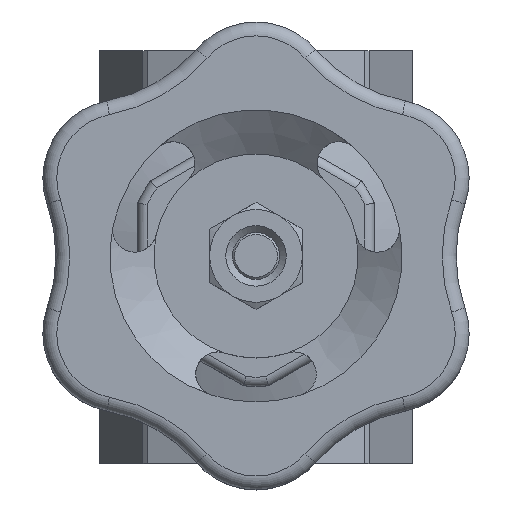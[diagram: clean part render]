
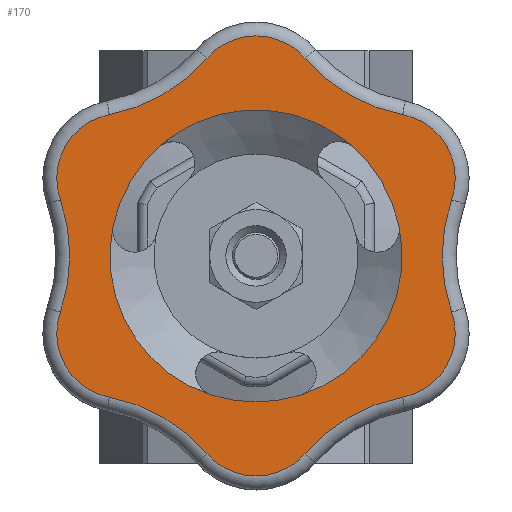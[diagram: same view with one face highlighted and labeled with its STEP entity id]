
A CAD part, top view. The second image highlights one B-rep face of the part: STEP entity #170.
In plain terms, the highlighted planar face has unit normal (0, 0, 1).
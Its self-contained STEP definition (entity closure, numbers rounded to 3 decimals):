
#170=ADVANCED_FACE('',(#1401,#1403),#1405,.T.);
#1401=FACE_BOUND('',#1402,.T.);
#1402=EDGE_LOOP('',(#4708,#4709,#4710,#4711,#4712,#4713,#4714,#4715,#4716,#4717,
#4718,#4719));
#1403=FACE_BOUND('',#1404,.T.);
#1404=EDGE_LOOP('',(#4720,#4721,#4722,#4723,#4724,#4725));
#1405=PLANE('',#1406);
#1406=AXIS2_PLACEMENT_3D('',#1407,#1408,#1409);
#1407=CARTESIAN_POINT('',(0.,0.,76.));
#1408=DIRECTION('',(0.,0.,1.));
#1409=DIRECTION('',(0.,-1.,0.));
#4708=ORIENTED_EDGE('',*,*,#7433,.T.);
#4709=ORIENTED_EDGE('',*,*,#7434,.T.);
#4710=ORIENTED_EDGE('',*,*,#7435,.T.);
#4711=ORIENTED_EDGE('',*,*,#7436,.T.);
#4712=ORIENTED_EDGE('',*,*,#7437,.T.);
#4713=ORIENTED_EDGE('',*,*,#7438,.T.);
#4714=ORIENTED_EDGE('',*,*,#7439,.T.);
#4715=ORIENTED_EDGE('',*,*,#7440,.T.);
#4716=ORIENTED_EDGE('',*,*,#7441,.T.);
#4717=ORIENTED_EDGE('',*,*,#7442,.T.);
#4718=ORIENTED_EDGE('',*,*,#7443,.T.);
#4719=ORIENTED_EDGE('',*,*,#7444,.T.);
#4720=ORIENTED_EDGE('',*,*,#7414,.T.);
#4721=ORIENTED_EDGE('',*,*,#7413,.T.);
#4722=ORIENTED_EDGE('',*,*,#7416,.T.);
#4723=ORIENTED_EDGE('',*,*,#7418,.T.);
#4724=ORIENTED_EDGE('',*,*,#7417,.T.);
#4725=ORIENTED_EDGE('',*,*,#7419,.T.);
#7413=EDGE_CURVE('',#8862,#8881,#8926,.F.);
#7414=EDGE_CURVE('',#8902,#8862,#8927,.F.);
#7416=EDGE_CURVE('',#8881,#8888,#8930,.F.);
#7417=EDGE_CURVE('',#8891,#8899,#8931,.F.);
#7418=EDGE_CURVE('',#8888,#8891,#8932,.F.);
#7419=EDGE_CURVE('',#8899,#8902,#8933,.F.);
#7433=EDGE_CURVE('',#8954,#8955,#8956,.T.);
#7434=EDGE_CURVE('',#8955,#8957,#8958,.T.);
#7435=EDGE_CURVE('',#8957,#8959,#8960,.T.);
#7436=EDGE_CURVE('',#8959,#8961,#8962,.T.);
#7437=EDGE_CURVE('',#8961,#8963,#8964,.T.);
#7438=EDGE_CURVE('',#8963,#8965,#8966,.T.);
#7439=EDGE_CURVE('',#8965,#8967,#8968,.T.);
#7440=EDGE_CURVE('',#8967,#8969,#8970,.T.);
#7441=EDGE_CURVE('',#8969,#8971,#8972,.T.);
#7442=EDGE_CURVE('',#8971,#8973,#8974,.T.);
#7443=EDGE_CURVE('',#8973,#8975,#8976,.T.);
#7444=EDGE_CURVE('',#8975,#8954,#8977,.T.);
#8862=VERTEX_POINT('',#12801);
#8881=VERTEX_POINT('',#13215);
#8888=VERTEX_POINT('',#13312);
#8891=VERTEX_POINT('',#13369);
#8899=VERTEX_POINT('',#13442);
#8902=VERTEX_POINT('',#13501);
#8926=CIRCLE('',#13606,15.75);
#8927=CIRCLE('',#13610,15.75);
#8930=CIRCLE('',#13619,15.75);
#8931=CIRCLE('',#13623,15.75);
#8932=CIRCLE('',#13627,15.75);
#8933=CIRCLE('',#13631,15.75);
#8954=VERTEX_POINT('',#13953);
#8955=VERTEX_POINT('',#13954);
#8956=CIRCLE('',#13955,7.004);
#8957=VERTEX_POINT('',#13959);
#8958=CIRCLE('',#13960,18.508);
#8959=VERTEX_POINT('',#13964);
#8960=CIRCLE('',#13965,7.004);
#8961=VERTEX_POINT('',#13969);
#8962=CIRCLE('',#13970,18.508);
#8963=VERTEX_POINT('',#13974);
#8964=CIRCLE('',#13975,7.004);
#8965=VERTEX_POINT('',#13979);
#8966=CIRCLE('',#13980,18.508);
#8967=VERTEX_POINT('',#13984);
#8968=CIRCLE('',#13985,7.004);
#8969=VERTEX_POINT('',#13989);
#8970=CIRCLE('',#13990,18.508);
#8971=VERTEX_POINT('',#13994);
#8972=CIRCLE('',#13995,7.004);
#8973=VERTEX_POINT('',#13999);
#8974=CIRCLE('',#14000,18.508);
#8975=VERTEX_POINT('',#14004);
#8976=CIRCLE('',#14005,7.004);
#8977=CIRCLE('',#14009,18.508);
#12801=CARTESIAN_POINT('',(15.404,3.281,76.));
#13215=CARTESIAN_POINT('',(4.86,-14.981,76.));
#13312=CARTESIAN_POINT('',(-4.86,-14.981,76.));
#13369=CARTESIAN_POINT('',(-15.404,3.281,76.));
#13442=CARTESIAN_POINT('',(-10.544,11.7,76.));
#13501=CARTESIAN_POINT('',(10.544,11.7,76.));
#13606=AXIS2_PLACEMENT_3D('',#13607,#13608,#13609);
#13607=CARTESIAN_POINT('',(0.,0.,76.));
#13608=DIRECTION('',(0.,0.,1.));
#13609=DIRECTION('',(0.309,-0.951,0.));
#13610=AXIS2_PLACEMENT_3D('',#13611,#13612,#13613);
#13611=CARTESIAN_POINT('',(0.,0.,76.));
#13612=DIRECTION('',(0.,0.,1.));
#13613=DIRECTION('',(0.978,0.208,0.));
#13619=AXIS2_PLACEMENT_3D('',#13620,#13621,#13622);
#13620=CARTESIAN_POINT('',(0.,0.,76.));
#13621=DIRECTION('',(0.,0.,1.));
#13622=DIRECTION('',(-0.309,-0.951,0.));
#13623=AXIS2_PLACEMENT_3D('',#13624,#13625,#13626);
#13624=CARTESIAN_POINT('',(0.,0.,76.));
#13625=DIRECTION('',(0.,0.,1.));
#13626=DIRECTION('',(-0.669,0.743,0.));
#13627=AXIS2_PLACEMENT_3D('',#13628,#13629,#13630);
#13628=CARTESIAN_POINT('',(0.,0.,76.));
#13629=DIRECTION('',(0.,0.,1.));
#13630=DIRECTION('',(-0.978,0.208,0.));
#13631=AXIS2_PLACEMENT_3D('',#13632,#13633,#13634);
#13632=CARTESIAN_POINT('',(0.,0.,76.));
#13633=DIRECTION('',(0.,0.,1.));
#13634=DIRECTION('',(0.669,0.743,0.));
#13953=CARTESIAN_POINT('',(-15.804,15.241,76.));
#13954=CARTESIAN_POINT('',(-21.101,6.067,76.));
#13955=AXIS2_PLACEMENT_3D('',#13956,#13957,#13958);
#13956=CARTESIAN_POINT('',(-14.484,8.362,76.));
#13957=DIRECTION('',(0.,0.,1.));
#13958=DIRECTION('',(-0.189,0.982,0.));
#13959=CARTESIAN_POINT('',(-21.101,-6.067,76.));
#13960=AXIS2_PLACEMENT_3D('',#13961,#13962,#13963);
#13961=CARTESIAN_POINT('',(-38.587,0.,76.));
#13962=DIRECTION('',(0.,0.,-1.));
#13963=DIRECTION('',(0.945,0.328,0.));
#13964=CARTESIAN_POINT('',(-15.804,-15.241,76.));
#13965=AXIS2_PLACEMENT_3D('',#13966,#13967,#13968);
#13966=CARTESIAN_POINT('',(-14.484,-8.362,76.));
#13967=DIRECTION('',(0.,0.,1.));
#13968=DIRECTION('',(-0.945,0.328,0.));
#13969=CARTESIAN_POINT('',(-5.297,-21.307,76.));
#13970=AXIS2_PLACEMENT_3D('',#13971,#13972,#13973);
#13971=CARTESIAN_POINT('',(-19.293,-33.417,76.));
#13972=DIRECTION('',(0.,0.,-1.));
#13973=DIRECTION('',(0.189,0.982,0.));
#13974=CARTESIAN_POINT('',(5.297,-21.307,76.));
#13975=AXIS2_PLACEMENT_3D('',#13976,#13977,#13978);
#13976=CARTESIAN_POINT('',(0.,-16.725,76.));
#13977=DIRECTION('',(0.,0.,1.));
#13978=DIRECTION('',(-0.756,-0.654,0.));
#13979=CARTESIAN_POINT('',(15.804,-15.241,76.));
#13980=AXIS2_PLACEMENT_3D('',#13981,#13982,#13983);
#13981=CARTESIAN_POINT('',(19.293,-33.417,76.));
#13982=DIRECTION('',(0.,0.,-1.));
#13983=DIRECTION('',(-0.756,0.654,0.));
#13984=CARTESIAN_POINT('',(21.101,-6.067,76.));
#13985=AXIS2_PLACEMENT_3D('',#13986,#13987,#13988);
#13986=CARTESIAN_POINT('',(14.484,-8.362,76.));
#13987=DIRECTION('',(0.,0.,1.));
#13988=DIRECTION('',(0.189,-0.982,0.));
#13989=CARTESIAN_POINT('',(21.101,6.067,76.));
#13990=AXIS2_PLACEMENT_3D('',#13991,#13992,#13993);
#13991=CARTESIAN_POINT('',(38.587,0.,76.));
#13992=DIRECTION('',(0.,0.,-1.));
#13993=DIRECTION('',(-0.945,-0.328,0.));
#13994=CARTESIAN_POINT('',(15.804,15.241,76.));
#13995=AXIS2_PLACEMENT_3D('',#13996,#13997,#13998);
#13996=CARTESIAN_POINT('',(14.484,8.362,76.));
#13997=DIRECTION('',(0.,0.,1.));
#13998=DIRECTION('',(0.945,-0.328,0.));
#13999=CARTESIAN_POINT('',(5.297,21.307,76.));
#14000=AXIS2_PLACEMENT_3D('',#14001,#14002,#14003);
#14001=CARTESIAN_POINT('',(19.293,33.417,76.));
#14002=DIRECTION('',(0.,0.,-1.));
#14003=DIRECTION('',(-0.189,-0.982,0.));
#14004=CARTESIAN_POINT('',(-5.297,21.307,76.));
#14005=AXIS2_PLACEMENT_3D('',#14006,#14007,#14008);
#14006=CARTESIAN_POINT('',(0.,16.725,76.));
#14007=DIRECTION('',(0.,0.,1.));
#14008=DIRECTION('',(0.756,0.654,0.));
#14009=AXIS2_PLACEMENT_3D('',#14010,#14011,#14012);
#14010=CARTESIAN_POINT('',(-19.293,33.417,76.));
#14011=DIRECTION('',(0.,0.,-1.));
#14012=DIRECTION('',(0.756,-0.654,0.));
